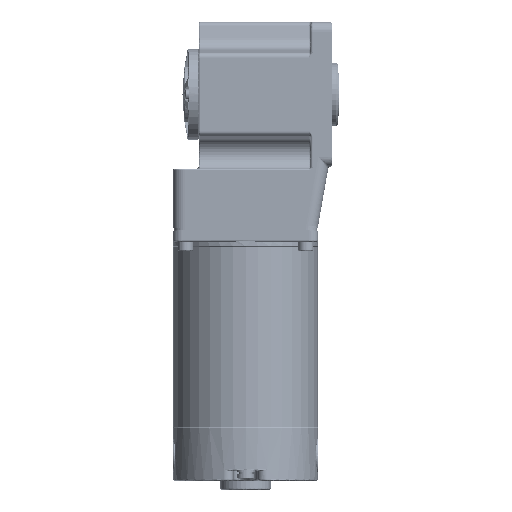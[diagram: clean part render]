
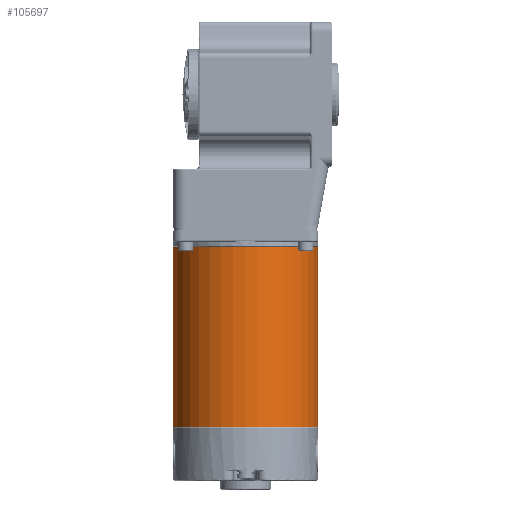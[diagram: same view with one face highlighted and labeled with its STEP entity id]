
A CAD part, front view. The second image highlights one B-rep face of the part: STEP entity #105697.
In plain terms, the highlighted cylindrical face has radius 40 mm (diameter 80 mm), a partial arc.
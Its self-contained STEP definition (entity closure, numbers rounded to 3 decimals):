
#7555 = CARTESIAN_POINT ( 'NONE',  ( 47.192, 0., 36.38 ) ) ;
#9522 = ORIENTED_EDGE ( 'NONE', *, *, #145390, .T. ) ;
#15584 = DIRECTION ( 'NONE',  ( 0., 0., -1. ) ) ;
#15643 = EDGE_CURVE ( 'NONE', #155012, #137563, #108058, .T. ) ;
#17125 = CIRCLE ( 'NONE', #32207, 40. ) ;
#19130 = DIRECTION ( 'NONE',  ( 0., 0., -1. ) ) ;
#27311 = CYLINDRICAL_SURFACE ( 'NONE', #67443, 40. ) ;
#28031 = EDGE_LOOP ( 'NONE', ( #79585, #9522, #114670, #61183 ) ) ;
#32207 = AXIS2_PLACEMENT_3D ( 'NONE', #37738, #36967, #15584 ) ;
#36967 = DIRECTION ( 'NONE',  ( 0., -1., 0. ) ) ;
#37738 = CARTESIAN_POINT ( 'NONE',  ( 47.192, 99., -3.62 ) ) ;
#39905 = VERTEX_POINT ( 'NONE', #7555 ) ;
#48876 = DIRECTION ( 'NONE',  ( 0., -1., 0. ) ) ;
#60384 = DIRECTION ( 'NONE',  ( 0., -1., 0. ) ) ;
#61161 = LINE ( 'NONE', #118770, #123628 ) ;
#61183 = ORIENTED_EDGE ( 'NONE', *, *, #143588, .T. ) ;
#62934 = VECTOR ( 'NONE', #48876, 1000. ) ;
#64408 = FACE_OUTER_BOUND ( 'NONE', #28031, .T. ) ;
#67443 = AXIS2_PLACEMENT_3D ( 'NONE', #138545, #114083, #113295 ) ;
#68037 = DIRECTION ( 'NONE',  ( 0., 1., 0. ) ) ;
#73433 = EDGE_CURVE ( 'NONE', #132311, #39905, #61161, .T. ) ;
#79585 = ORIENTED_EDGE ( 'NONE', *, *, #73433, .F. ) ;
#82822 = CARTESIAN_POINT ( 'NONE',  ( 47.192, 99., -43.62 ) ) ;
#92502 = CARTESIAN_POINT ( 'NONE',  ( 47.192, 0., -3.62 ) ) ;
#97305 = CARTESIAN_POINT ( 'NONE',  ( 47.192, 99., 36.38 ) ) ;
#105697 = ADVANCED_FACE ( 'NONE', ( #64408 ), #27311, .T. ) ;
#108058 = LINE ( 'NONE', #82822, #62934 ) ;
#113231 = CARTESIAN_POINT ( 'NONE',  ( 47.192, 0., -43.62 ) ) ;
#113295 = DIRECTION ( 'NONE',  ( 0., 0., -1. ) ) ;
#114083 = DIRECTION ( 'NONE',  ( 0., -1., 0. ) ) ;
#114670 = ORIENTED_EDGE ( 'NONE', *, *, #15643, .T. ) ;
#118770 = CARTESIAN_POINT ( 'NONE',  ( 47.192, 99., 36.38 ) ) ;
#123628 = VECTOR ( 'NONE', #60384, 1000. ) ;
#127767 = CARTESIAN_POINT ( 'NONE',  ( 47.192, 99., -43.62 ) ) ;
#130497 = CIRCLE ( 'NONE', #150642, 40. ) ;
#132311 = VERTEX_POINT ( 'NONE', #97305 ) ;
#137563 = VERTEX_POINT ( 'NONE', #113231 ) ;
#138545 = CARTESIAN_POINT ( 'NONE',  ( 47.192, 99., -3.62 ) ) ;
#143588 = EDGE_CURVE ( 'NONE', #137563, #39905, #130497, .T. ) ;
#145390 = EDGE_CURVE ( 'NONE', #132311, #155012, #17125, .T. ) ;
#150642 = AXIS2_PLACEMENT_3D ( 'NONE', #92502, #68037, #19130 ) ;
#155012 = VERTEX_POINT ( 'NONE', #127767 ) ;
